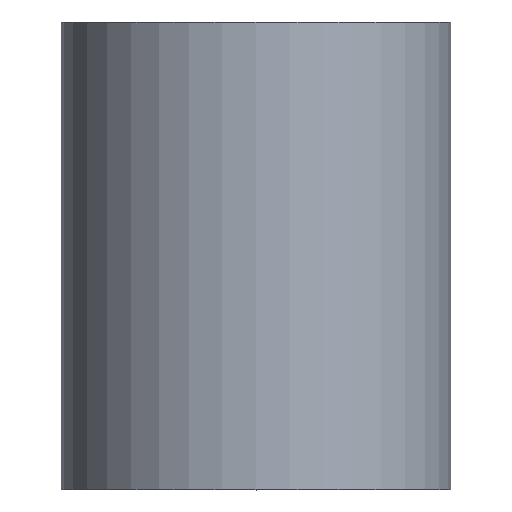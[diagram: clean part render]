
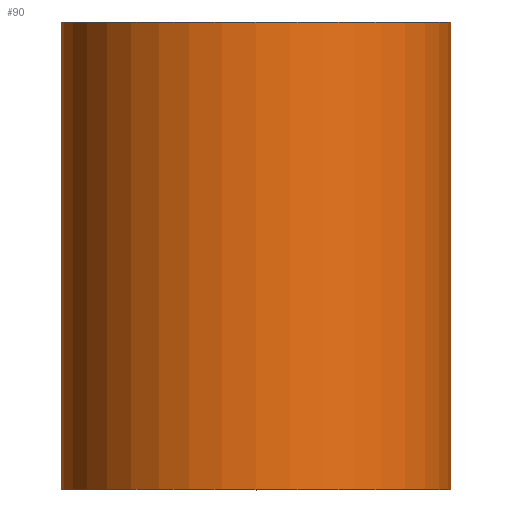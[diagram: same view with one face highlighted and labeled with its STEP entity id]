
A CAD part, top view. The second image highlights one B-rep face of the part: STEP entity #90.
In plain terms, the highlighted cylindrical face has radius 2.5 mm (diameter 5 mm), a partial arc.
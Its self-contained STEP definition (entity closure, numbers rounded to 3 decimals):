
#1 = ORIENTED_EDGE ( 'NONE', *, *, #260, .F. ) ;
#9 = LINE ( 'NONE', #234, #154 ) ;
#11 = CARTESIAN_POINT ( 'NONE',  ( 2.5, 6., 0. ) ) ;
#37 = DIRECTION ( 'NONE',  ( 0., 1., 0. ) ) ;
#40 = DIRECTION ( 'NONE',  ( 0., 1., 0. ) ) ;
#41 = CYLINDRICAL_SURFACE ( 'NONE', #282, 2.5 ) ;
#42 = DIRECTION ( 'NONE',  ( -1., 0., 0. ) ) ;
#58 = CARTESIAN_POINT ( 'NONE',  ( 2.5, 0., 0. ) ) ;
#72 = ORIENTED_EDGE ( 'NONE', *, *, #247, .T. ) ;
#81 = CARTESIAN_POINT ( 'NONE',  ( 0., 0., 0. ) ) ;
#89 = LINE ( 'NONE', #241, #193 ) ;
#90 = ADVANCED_FACE ( 'NONE', ( #206 ), #41, .T. ) ;
#95 = EDGE_CURVE ( 'NONE', #149, #280, #9, .T. ) ;
#112 = CIRCLE ( 'NONE', #273, 2.5 ) ;
#125 = DIRECTION ( 'NONE',  ( -1., 0., 0. ) ) ;
#126 = CARTESIAN_POINT ( 'NONE',  ( -2.5, 6., 0. ) ) ;
#136 = EDGE_LOOP ( 'NONE', ( #283, #72, #1, #295 ) ) ;
#138 = CIRCLE ( 'NONE', #291, 2.5 ) ;
#149 = VERTEX_POINT ( 'NONE', #203 ) ;
#154 = VECTOR ( 'NONE', #209, 1000. ) ;
#174 = CARTESIAN_POINT ( 'NONE',  ( 0., 0., 0. ) ) ;
#187 = DIRECTION ( 'NONE',  ( -1., 0., 0. ) ) ;
#193 = VECTOR ( 'NONE', #292, 1000. ) ;
#203 = CARTESIAN_POINT ( 'NONE',  ( -2.5, 0., 0. ) ) ;
#206 = FACE_OUTER_BOUND ( 'NONE', #136, .T. ) ;
#207 = DIRECTION ( 'NONE',  ( 0., 1., 0. ) ) ;
#209 = DIRECTION ( 'NONE',  ( 0., 1., 0. ) ) ;
#218 = VERTEX_POINT ( 'NONE', #11 ) ;
#226 = VERTEX_POINT ( 'NONE', #58 ) ;
#234 = CARTESIAN_POINT ( 'NONE',  ( -2.5, 0., 0. ) ) ;
#241 = CARTESIAN_POINT ( 'NONE',  ( 2.5, 0., 0. ) ) ;
#247 = EDGE_CURVE ( 'NONE', #226, #218, #89, .T. ) ;
#260 = EDGE_CURVE ( 'NONE', #280, #218, #112, .T. ) ;
#273 = AXIS2_PLACEMENT_3D ( 'NONE', #293, #40, #125 ) ;
#279 = EDGE_CURVE ( 'NONE', #149, #226, #138, .T. ) ;
#280 = VERTEX_POINT ( 'NONE', #126 ) ;
#282 = AXIS2_PLACEMENT_3D ( 'NONE', #81, #207, #187 ) ;
#283 = ORIENTED_EDGE ( 'NONE', *, *, #279, .T. ) ;
#291 = AXIS2_PLACEMENT_3D ( 'NONE', #174, #37, #42 ) ;
#292 = DIRECTION ( 'NONE',  ( 0., 1., 0. ) ) ;
#293 = CARTESIAN_POINT ( 'NONE',  ( 0., 6., 0. ) ) ;
#295 = ORIENTED_EDGE ( 'NONE', *, *, #95, .F. ) ;
